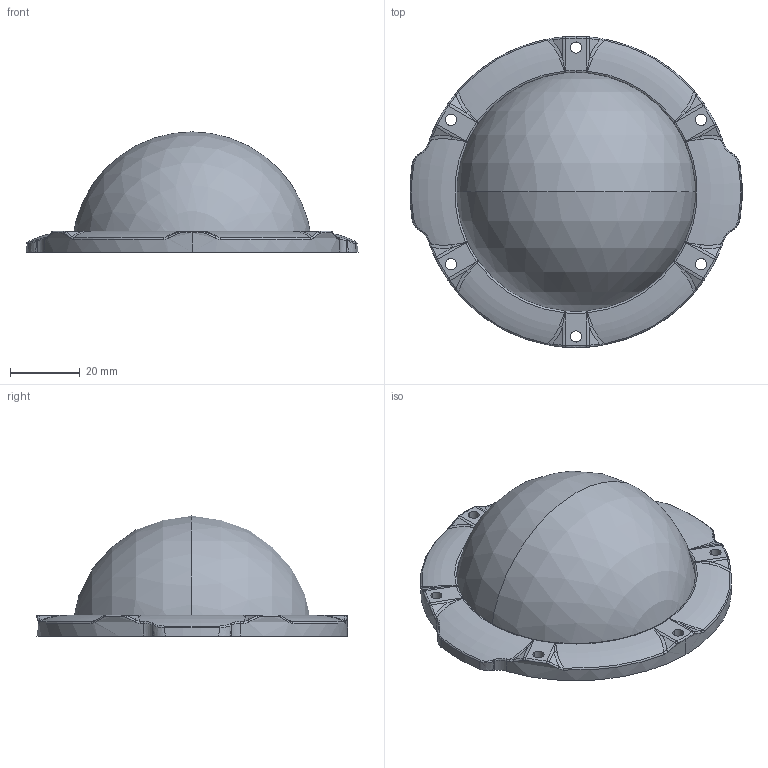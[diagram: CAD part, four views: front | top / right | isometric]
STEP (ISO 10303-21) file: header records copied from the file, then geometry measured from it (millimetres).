
FILE_DESCRIPTION (( 'STEP AP214' ), '1' );
FILE_NAME ('WTE3-ASM-DOME-R1.STEP', '2017-12-28T20:39:46', ( '' ), ( '' ), 'SwSTEP 2.0', 'SolidWorks 2016', '' );
FILE_SCHEMA (( 'AUTOMOTIVE_DESIGN' ));
Length unit declared in the file: inch
Products named in the file (1): WTE3-ASM-DOME-R1
Bounding box: 94.86 x 88.9 x 34.35 mm (x, y, z)
Volume: 34297.7 mm3; surface area: 24530.4 mm2
Topology: 2 solids, 2 shells, 252 faces, 642 edges, 390 vertices
Faces by surface type: bspline 112, torus 55, plane 38, cylinder 31, cone 12, sphere 4
Entity records: 12716 total; most frequent: CARTESIAN_POINT 4027, ORIENTED_EDGE 1284, DIRECTION 973, EDGE_CURVE 642, AXIS2_PLACEMENT_3D 442, VERTEX_POINT 390, CIRCLE 301, EDGE_LOOP 262
